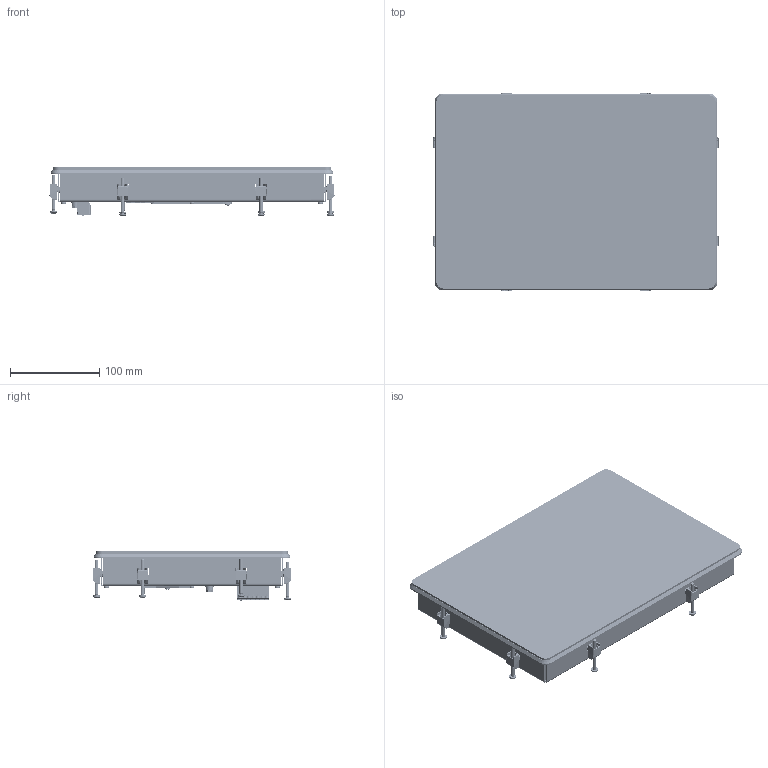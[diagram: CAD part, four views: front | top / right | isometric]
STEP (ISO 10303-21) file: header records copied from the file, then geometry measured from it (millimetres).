
FILE_DESCRIPTION(/* description */ ('STEP AP203'),/* implementation_level */ '2;1');
FILE_NAME(/* name */ 'TC-WP620_20260617.stp',/* time_stamp */ '2026-06-17T09:31:41+02:00',/* author */ ('ut3'),/* organization */ ('Microsoft'),/* preprocessor_version */ 'ST-DEVELOPER v20.1',/* originating_system */ 'Autodesk Inventor 2026',/* authorisation */ '');
FILE_SCHEMA (('AUTOMOTIVE_DESIGN { 1 0 10303 214 3 1 1 }'));
Products named in the file (188): WP820_V1; AssiemeRMB_PCB_V1; 0400.60.041_1753534_04_MSTBV-2-5-7-G_3D; DB9-M; DB9-F; SSD_2242_B_M; RMB-PCB_V1; 1300.20.540_v3; 1300.20.540_V3_1; DiscoMasc-10; M4_FTTC_C-128; M3_FTR-67; 1300_20_369_V2; M4_FTTC_C; 1600_00_165; 1600_00_166; 1600_00_167; M3_FTR_L; 1300_20_304_REV2; 1300.20.539_V1_Guarnizione; 1300.20.541_V3; 1300.20.541_V3_1; DP06_1030_M3; 1600.00.026; ISO 7045 - M3 x 10 - 4.8 - Z; 1600.00.108; ISO 7045 - M4 x 40 - 4.8 - Z; 0400.60.078_1910403_04_FKC-2-5-7-ST_3D; fkc_2.5-7-st; 615008138321 (rev1); 615008138321_Housing; 615008138321_Housing1; 615008138321_LED_Jaune; 615008138321_LED_jaune_1; 615008138321_LED_vert; 615008138321_LED2; 615008138321_LED1; 615008138321_LED_vert_1; 615008138321_Pin1; 615008138321_Pin3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
Assembly tree (316 placements, depth 5):
  WP820_V1
    AssiemeRMB_PCB_V1
      0400.60.041_1753534_04_MSTBV-2-5-7-G_3D
      615008138321 (rev1)  x2
        615008138321_Housing
        615008138321_Housing1
        615008138321_LED_Jaune
          615008138321_LED2
          615008138321_LED1
          615008138321_LED_jaune_1
        615008138321_LED_vert
          615008138321_LED2
          615008138321_LED1
          615008138321_LED_vert_1
        615008138321_Pin1
        615008138321_Pin3
        615008138321_Pin5
        615008138321_Pin7
        615008138321_Pin2
        615008138321_Pin4
        615008138321_Pin6
        615008138321_Pin8
        615008138321_Shielding
      DB9-M
      DB9-F
      SSD_2242_B_M
      RMB-PCB_V1
      0410.00.002_614004135023 (rev1)  x2
        Insulator
        Pin
        Shielding
        Insulator2
      0400.60.078_1910403_04_FKC-2-5-7-ST_3D
        fkc_2.5-7-st
    1300.20.540_v3
      1300.20.540_V3_1
      DiscoMasc-10  x3
      M4_FTTC_C-128
      M3_FTR-67
    1300_20_369_V2
    1600_00_059  x26
    M4_FTTC_C
    1600_00_165
    1600_00_166
    1600_00_167
    M3_FTR_L
    1300_20_304_REV2  x8
    1300.20.539_V1_Guarnizione
    ISO 7045 - M4 x 40 - 4.8 - Z  x8
    1600.00.108  x9
    ISO 7045 - M3 x 10 - 4.8 - Z  x2
    1300.20.541_V3
      1300.20.541_V3_1
      DP06_1030_M3  x9
    1600.00.026
    0400.60.078_1910403_04_FKC-2-5-7-ST_3D
      fkc_2.5-7-st
    615008138321 (rev1)  x2
      615008138321_Housing
      615008138321_Housing1
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Bounding box: 318.7 x 222.5 x 54.86 mm (x, y, z)
Volume: 969839.3 mm3; surface area: 802738.6 mm2
Topology: 1053 solids, 1123 shells, 24378 faces, 62131 edges, 40548 vertices
Faces by surface type: plane 15529, cylinder 6914, bspline 1042, cone 360, sphere 332, torus 201
Full cylindrical faces by diameter (mm): 0 x1, 0.156 x1, 0.163 x2, 0.2 x61, 0.254 x567, 0.305 x1, 0.345 x1, 0.406 x277, 0.457 x2, 0.5 x3, 0.508 x16, 0.6 x16, 0.61 x15, 0.65 x2, 0.66 x36, 0.75 x2, 0.762 x58, 0.8 x12, 0.85 x2, 0.875 x1, 0.889 x68, 1.016 x67, 1.1 x1, 1.118 x83, 1.2 x4, 1.3 x7, 1.321 x3, 1.4 x14, 1.416 x2, 1.567 x4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
Entity records: 493015 total; most frequent: CARTESIAN_POINT 108316, DIRECTION 75958, ORIENTED_EDGE 74390, EDGE_CURVE 37268, LINE 27690, VECTOR 27690, VERTEX_POINT 24465, AXIS2_PLACEMENT_3D 24134
